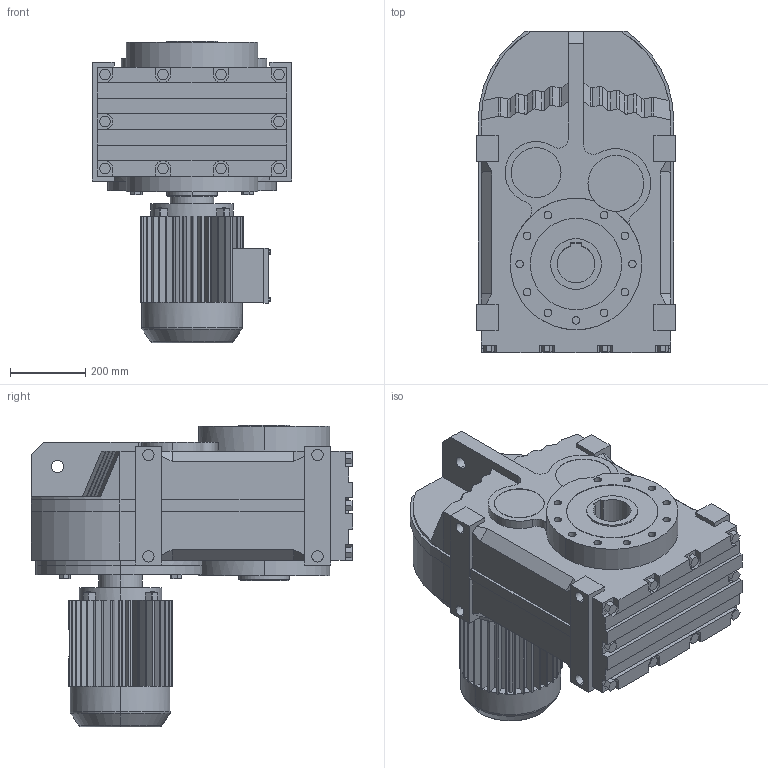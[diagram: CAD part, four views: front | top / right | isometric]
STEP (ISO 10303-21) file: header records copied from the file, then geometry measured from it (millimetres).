
FILE_DESCRIPTION(('Open CASCADE Model'),'2;1');
FILE_NAME('Open CASCADE Shape Model','2021-07-20T10:10:26',('Author'),( 'Open CASCADE'),'Open CASCADE STEP processor 6.3','Open CASCADE 6.3' ,'Unknown');
FILE_SCHEMA(('AUTOMOTIVE_DESIGN_CC2 { 1 2 10303 214 -1 1 5 4 }'));
Length unit declared in the file: millimetre
Products named in the file (4): 1_FA127-Y132M; FA27‵157_127.step; 萇儂_450.step; す瑩諾陑粣F_127.step
Assembly tree (3 placements, depth 2):
  1_FA127-Y132M
    FA27‵157_127.step
    萇儂_450.step
    す瑩諾陑粣F_127.step
Bounding box: 530 x 856 x 803 mm (x, y, z)
Volume: 146137609.6 mm3; surface area: 3549945.8 mm2
Topology: 3 solids, 3 shells, 785 faces, 2065 edges, 1346 vertices
Faces by surface type: plane 566, cylinder 197, bspline 16, torus 4, cone 2
Entity records: 52176 total; most frequent: CARTESIAN_POINT 12512, DIRECTION 6949, ORIENTED_EDGE 4130, PCURVE 4130, DEFINITIONAL_REPRESENTATION 4130, LINE 3883, VECTOR 3883, EDGE_CURVE 2065
